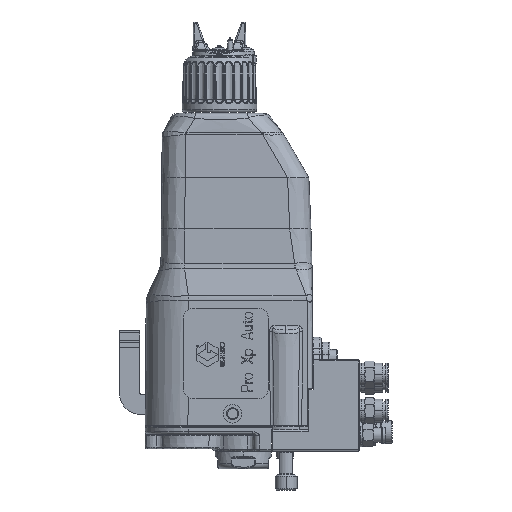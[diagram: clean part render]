
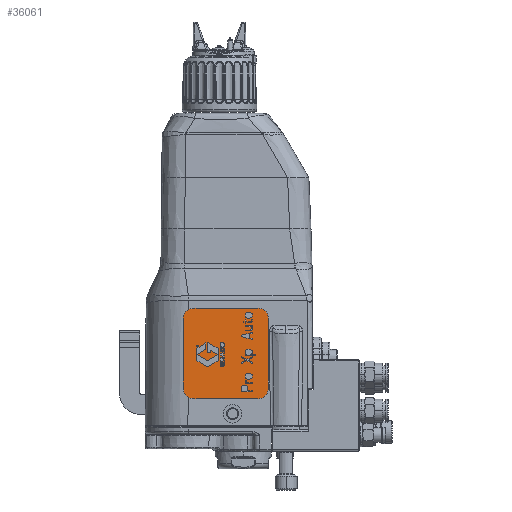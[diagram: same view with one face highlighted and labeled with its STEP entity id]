
A CAD part, left-side view. The second image highlights one B-rep face of the part: STEP entity #36061.
In plain terms, the highlighted planar face has unit normal (-1, 0, 0).
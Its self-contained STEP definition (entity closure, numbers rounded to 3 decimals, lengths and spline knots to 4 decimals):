
#32104=DIRECTION('',(0.,0.,1.));
#32105=VECTOR('',#32104,1.625);
#32106=CARTESIAN_POINT('',(-1.24,-1.863,1.485));
#32107=LINE('',#32106,#32105);
#32108=CARTESIAN_POINT('',(-1.24,-1.613,1.485));
#32109=DIRECTION('',(1.,0.,0.));
#32110=DIRECTION('',(0.,-1.,0.));
#32111=AXIS2_PLACEMENT_3D('',#32108,#32109,#32110);
#32113=DIRECTION('',(0.,1.,0.));
#32114=VECTOR('',#32113,1.5);
#32115=CARTESIAN_POINT('',(-1.24,-1.613,1.235));
#32116=LINE('',#32115,#32114);
#32117=CARTESIAN_POINT('',(-1.24,-0.113,1.485));
#32118=DIRECTION('',(-1.,0.,0.));
#32119=DIRECTION('',(0.,1.,0.));
#32120=AXIS2_PLACEMENT_3D('',#32117,#32118,#32119);
#32122=DIRECTION('',(0.,0.,-1.));
#32123=VECTOR('',#32122,1.625);
#32124=CARTESIAN_POINT('',(-1.24,0.137,3.11));
#32125=LINE('',#32124,#32123);
#32126=CARTESIAN_POINT('',(-1.24,-0.113,3.11));
#32127=DIRECTION('',(-1.,0.,0.));
#32128=DIRECTION('',(0.,0.,1.));
#32129=AXIS2_PLACEMENT_3D('',#32126,#32127,#32128);
#32131=DIRECTION('',(0.,1.,0.));
#32132=VECTOR('',#32131,1.5);
#32133=CARTESIAN_POINT('',(-1.24,-1.613,3.36));
#32134=LINE('',#32133,#32132);
#32135=CARTESIAN_POINT('',(-1.24,-1.613,3.11));
#32136=DIRECTION('',(-1.,0.,0.));
#32137=DIRECTION('',(0.,-1.,0.));
#32138=AXIS2_PLACEMENT_3D('',#32135,#32136,#32137);
#35107=CARTESIAN_POINT('',(-1.24,-1.863,1.485));
#35108=CARTESIAN_POINT('',(-1.24,-1.863,3.11));
#35109=VERTEX_POINT('',#35107);
#35110=VERTEX_POINT('',#35108);
#35111=CARTESIAN_POINT('',(-1.24,-1.613,3.36));
#35112=VERTEX_POINT('',#35111);
#35113=CARTESIAN_POINT('',(-1.24,-0.113,3.36));
#35114=VERTEX_POINT('',#35113);
#35115=CARTESIAN_POINT('',(-1.24,0.137,3.11));
#35116=VERTEX_POINT('',#35115);
#35117=CARTESIAN_POINT('',(-1.24,0.137,1.485));
#35118=VERTEX_POINT('',#35117);
#35119=CARTESIAN_POINT('',(-1.24,-0.113,1.235));
#35120=VERTEX_POINT('',#35119);
#35121=CARTESIAN_POINT('',(-1.24,-1.613,1.235));
#35122=VERTEX_POINT('',#35121);
#36038=CARTESIAN_POINT('',(-1.24,-1.863,1.235));
#36039=DIRECTION('',(-1.,0.,0.));
#36040=DIRECTION('',(0.,0.,1.));
#36041=AXIS2_PLACEMENT_3D('',#36038,#36039,#36040);
#36042=PLANE('',#36041);
#36044=ORIENTED_EDGE('',*,*,#36043,.F.);
#36046=ORIENTED_EDGE('',*,*,#36045,.T.);
#36048=ORIENTED_EDGE('',*,*,#36047,.T.);
#36050=ORIENTED_EDGE('',*,*,#36049,.F.);
#36052=ORIENTED_EDGE('',*,*,#36051,.F.);
#36054=ORIENTED_EDGE('',*,*,#36053,.F.);
#36056=ORIENTED_EDGE('',*,*,#36055,.F.);
#36058=ORIENTED_EDGE('',*,*,#36057,.F.);
#36059=EDGE_LOOP('',(#36044,#36046,#36048,#36050,#36052,#36054,#36056,#36058));
#36060=FACE_OUTER_BOUND('',#36059,.F.);
#36061=ADVANCED_FACE('',(#36060),#36042,.T.);
#32112=CIRCLE('',#32111,0.25);
#32121=CIRCLE('',#32120,0.25);
#32130=CIRCLE('',#32129,0.25);
#32139=CIRCLE('',#32138,0.25);
#36043=EDGE_CURVE('',#35109,#35110,#32107,.T.);
#36045=EDGE_CURVE('',#35109,#35122,#32112,.T.);
#36047=EDGE_CURVE('',#35122,#35120,#32116,.T.);
#36049=EDGE_CURVE('',#35118,#35120,#32121,.T.);
#36051=EDGE_CURVE('',#35116,#35118,#32125,.T.);
#36053=EDGE_CURVE('',#35114,#35116,#32130,.T.);
#36055=EDGE_CURVE('',#35112,#35114,#32134,.T.);
#36057=EDGE_CURVE('',#35110,#35112,#32139,.T.);
